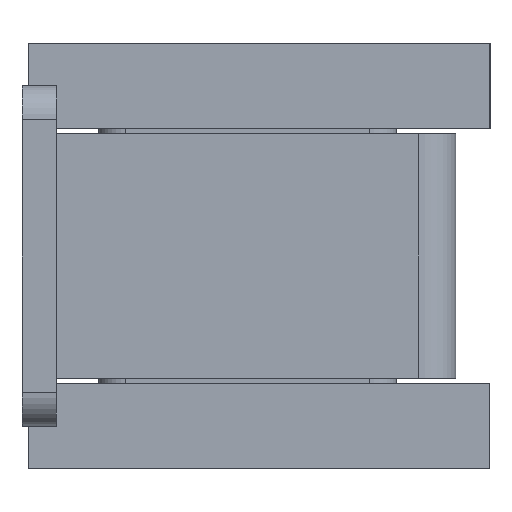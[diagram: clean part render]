
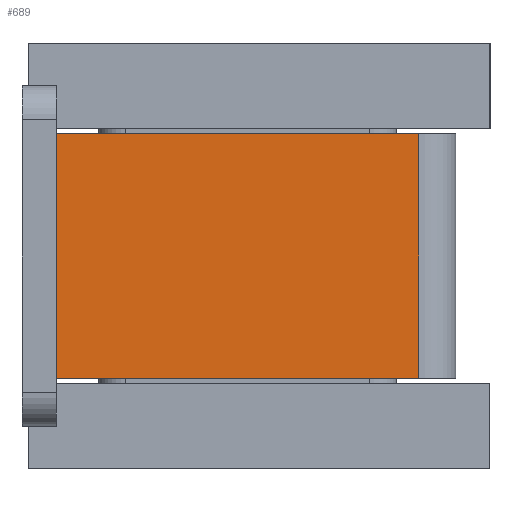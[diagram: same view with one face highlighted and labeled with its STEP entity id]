
A CAD part, left-side view. The second image highlights one B-rep face of the part: STEP entity #689.
In plain terms, the highlighted planar face has unit normal (-1, 0, 0).
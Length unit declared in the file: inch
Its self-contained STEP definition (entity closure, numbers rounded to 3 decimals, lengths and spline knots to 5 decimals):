
#4 = FACE_OUTER_BOUND ( 'NONE', #2550, .T. ) ;
#271 = LINE ( 'NONE', #1804, #1510 ) ;
#436 = DIRECTION ( 'NONE',  ( 1., 0., 0. ) ) ;
#437 = ORIENTED_EDGE ( 'NONE', *, *, #1013, .F. ) ;
#447 = LINE ( 'NONE', #1348, #1023 ) ;
#491 = DIRECTION ( 'NONE',  ( 0., 0., -1. ) ) ;
#537 = CARTESIAN_POINT ( 'NONE',  ( -1.00312, -1.165, 0.35937 ) ) ;
#581 = VECTOR ( 'NONE', #2460, 39.37008 ) ;
#618 = DIRECTION ( 'NONE',  ( 0., 1., 0. ) ) ;
#689 = ADVANCED_FACE ( 'NONE', ( #4 ), #1706, .F. ) ;
#695 = VECTOR ( 'NONE', #618, 39.37008 ) ;
#827 = EDGE_CURVE ( 'NONE', #2397, #2554, #447, .T. ) ;
#918 = DIRECTION ( 'NONE',  ( 0., -1., 0. ) ) ;
#943 = AXIS2_PLACEMENT_3D ( 'NONE', #2547, #436, #1509 ) ;
#971 = EDGE_CURVE ( 'NONE', #2554, #2186, #271, .T. ) ;
#1013 = EDGE_CURVE ( 'NONE', #1538, #2186, #1135, .T. ) ;
#1016 = CARTESIAN_POINT ( 'NONE',  ( -1.00313, -0.1, 0.35937 ) ) ;
#1023 = VECTOR ( 'NONE', #491, 39.37008 ) ;
#1135 = LINE ( 'NONE', #2039, #581 ) ;
#1348 = CARTESIAN_POINT ( 'NONE',  ( -1.00313, -0.1, -0.35937 ) ) ;
#1363 = ORIENTED_EDGE ( 'NONE', *, *, #971, .T. ) ;
#1509 = DIRECTION ( 'NONE',  ( 0., 1., 0. ) ) ;
#1510 = VECTOR ( 'NONE', #918, 39.37008 ) ;
#1538 = VERTEX_POINT ( 'NONE', #537 ) ;
#1627 = CARTESIAN_POINT ( 'NONE',  ( -1.00313, -0.1, -0.35937 ) ) ;
#1706 = PLANE ( 'NONE',  #943 ) ;
#1804 = CARTESIAN_POINT ( 'NONE',  ( -1.00312, -1.225, -0.35937 ) ) ;
#1823 = ORIENTED_EDGE ( 'NONE', *, *, #827, .T. ) ;
#2039 = CARTESIAN_POINT ( 'NONE',  ( -1.00312, -1.165, 0.35938 ) ) ;
#2074 = CARTESIAN_POINT ( 'NONE',  ( -1.00312, -1.165, -0.35937 ) ) ;
#2109 = LINE ( 'NONE', #2497, #695 ) ;
#2186 = VERTEX_POINT ( 'NONE', #2074 ) ;
#2317 = ORIENTED_EDGE ( 'NONE', *, *, #2342, .T. ) ;
#2342 = EDGE_CURVE ( 'NONE', #1538, #2397, #2109, .T. ) ;
#2397 = VERTEX_POINT ( 'NONE', #1016 ) ;
#2460 = DIRECTION ( 'NONE',  ( 0., 0., -1. ) ) ;
#2497 = CARTESIAN_POINT ( 'NONE',  ( -1.00313, -0.1, 0.35937 ) ) ;
#2547 = CARTESIAN_POINT ( 'NONE',  ( -1.00312, -1.225, 0.35938 ) ) ;
#2550 = EDGE_LOOP ( 'NONE', ( #437, #2317, #1823, #1363 ) ) ;
#2554 = VERTEX_POINT ( 'NONE', #1627 ) ;
